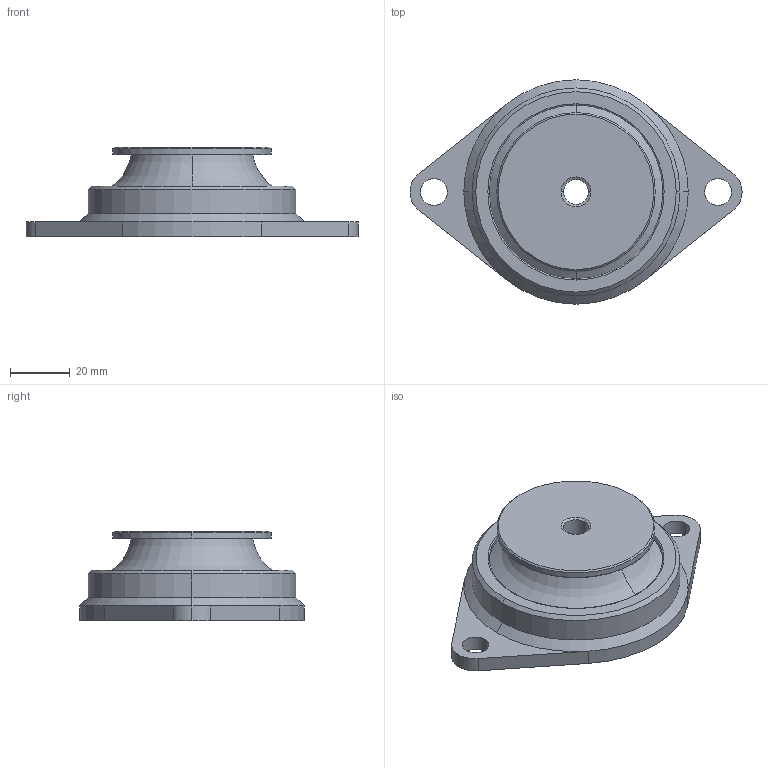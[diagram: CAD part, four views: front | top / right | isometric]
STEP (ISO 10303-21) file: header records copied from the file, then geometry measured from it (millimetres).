
FILE_DESCRIPTION(('STEP AP214'),'1');
FILE_NAME('U:/Inhalte (Daten)/Content neue Seite/CAD Files/EluFlex_70_SF.stp','2014-08-27T14:34:51',(' '),(' '),'Spatial InterOp 3D',' ',' ');
FILE_SCHEMA(('automotive_design'));
Length unit declared in the file: millimetre
Products named in the file (1): 1
Bounding box: 111 x 75 x 30 mm (x, y, z)
Volume: 77542.5 mm3; surface area: 26363.2 mm2
Topology: 1 solids, 1 shells, 68 faces, 176 edges, 114 vertices
Faces by surface type: cylinder 24, torus 20, cone 12, plane 12
Entity records: 2175 total; most frequent: DIRECTION 442, CARTESIAN_POINT 359, ORIENTED_EDGE 352, AXIS2_PLACEMENT_3D 197, EDGE_CURVE 176, CIRCLE 128, VERTEX_POINT 114, EDGE_LOOP 78
